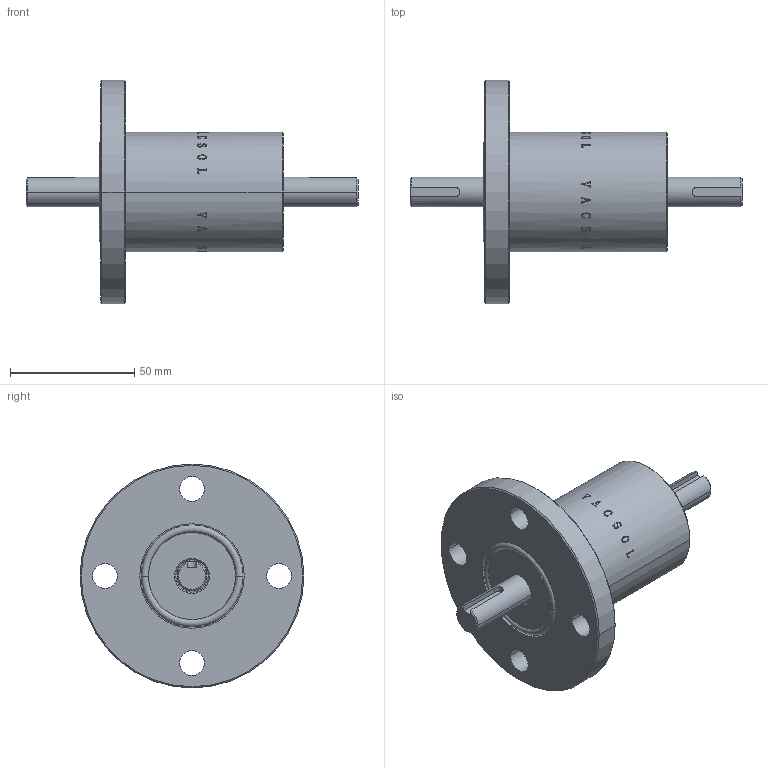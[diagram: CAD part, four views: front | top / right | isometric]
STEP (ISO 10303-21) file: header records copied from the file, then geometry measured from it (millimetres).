
FILE_DESCRIPTION (( 'STEP AP214' ), '1' );
FILE_NAME ('m12.STEP', '2010-08-26T11:46:31', ( 'user' ), ( '' ), 'SwSTEP 2.0', 'SolidWorks 2007', '' );
FILE_SCHEMA (( 'AUTOMOTIVE_DESIGN' ));
Length unit declared in the file: millimetre
Products named in the file (1): m12
Bounding box: 133.5 x 90 x 90 mm (x, y, z)
Volume: 181410.6 mm3; surface area: 29904.2 mm2
Topology: 2 solids, 2 shells, 386 faces, 1041 edges, 688 vertices
Faces by surface type: bspline 255, plane 60, cylinder 51, cone 16, torus 4
Entity records: 38884 total; most frequent: CARTESIAN_POINT 27681, ORIENTED_EDGE 2082, EDGE_CURVE 1041, B_SPLINE_CURVE_WITH_KNOTS 808, VERTEX_POINT 688, DIRECTION 628, EDGE_LOOP 425, ADVANCED_FACE 386
